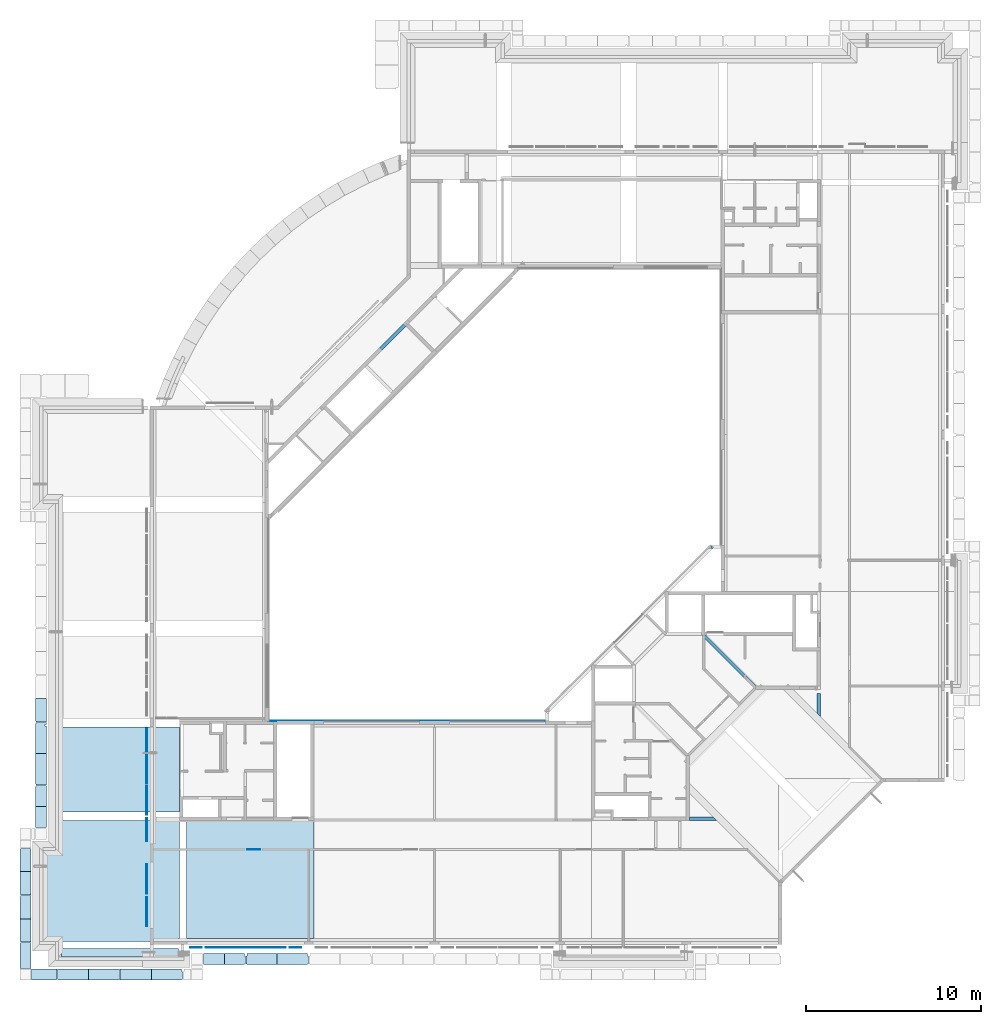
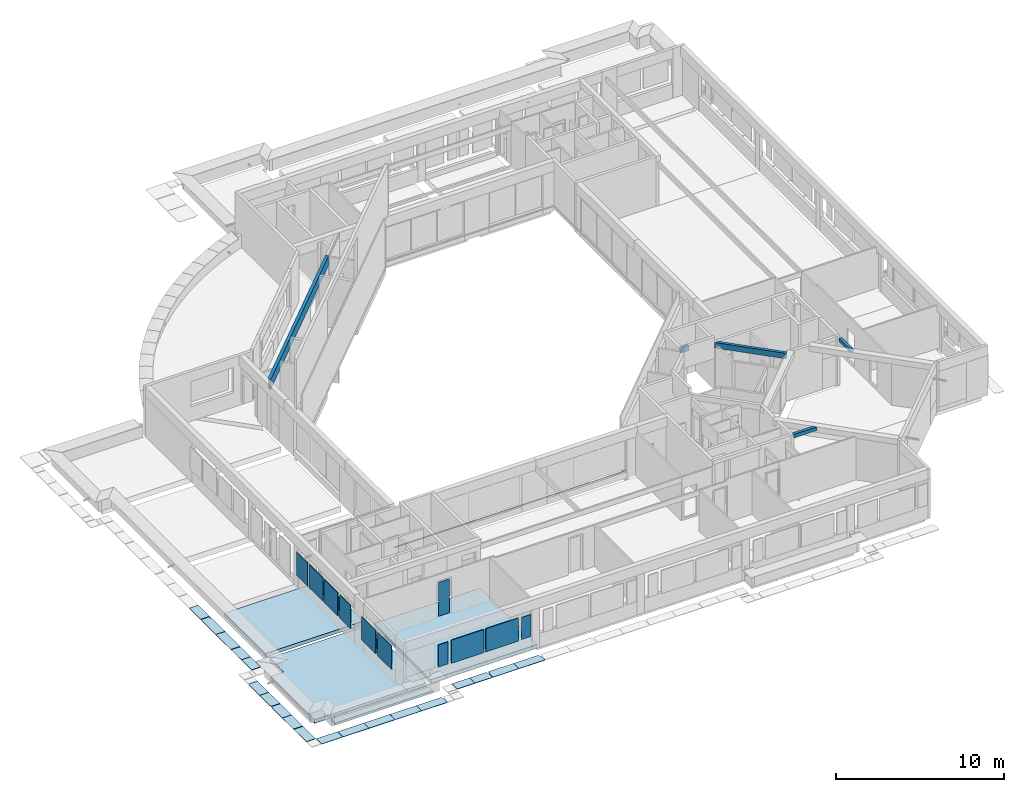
# One storey, part 2 of 38: 23 slabs, 11 plates, 5 beams, 1 member.
"""IFC4X3_ADD2 building model written with IfcOpenShell, lengths in millimetres."""

from ifc_helpers import new_model, si_unit, direction, frame, frame_2d, origin_with_axes, origin_2d_with_axis, place, context, subcontext, project, spatial, polyline, rectangle, outline, extrude, polygons, source, transform, mapped, material, type_object, type_shapes, element, save


model = new_model("IFC4X3_ADD2")

# Units and contexts
model_context = context("Model", 3, precision=1e-05, world=origin_with_axes(), true_north=direction((0.0, 1.0)))
body_context = subcontext(model_context, "Body", "Model", "MODEL_VIEW")
ifc_project = project(units=[si_unit("LENGTHUNIT", "METRE", prefix="MILLI"), si_unit("AREAUNIT", "SQUARE_METRE"), si_unit("VOLUMEUNIT", "CUBIC_METRE"), si_unit("PLANEANGLEUNIT", "RADIAN"), si_unit("TIMEUNIT", "SECOND"), si_unit("MASSUNIT", "GRAM")], contexts=[model_context])

# Site, building, storey
site_placement = place(None, origin_with_axes())
site = spatial("IfcSite", under=ifc_project, at=site_placement, Name="Site", CompositionType="ELEMENT")
building_placement = place(site_placement, origin_with_axes())
building = spatial("IfcBuilding", under=site, at=building_placement, Name="IFC Building Story")
storey_placement = place(building_placement, frame((0.0, 0.0, 10800.0), z_axis=(0.0, 0.0, 1.0), x_axis=(1.0, 0.0, 0.0)))
storey = spatial("IfcBuildingStorey", under=building, at=storey_placement, Name="030", Elevation=10800.0)

# Beams
ifc_material_1 = material(Name="BB_Beton_Bestaand")
beam_type_1 = type_object("IfcBeamType", Name="BB_XX_Betonbalk_ rechthoekig_ center-center_SFB_190 x 400 mm21", PredefinedType="NOTDEFINED")
shared_shape_1 = source(origin_with_axes(), body_context, "Body", "Tessellation", [
    polygons([(3099.99999999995, 0.0, 400.0), (3099.99999999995, 0.0, 0.0), (3234.3502884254, 134.350288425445, 0.0), (3234.3502884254, 134.350288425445, 400.0), (1.08286712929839e-11, 3099.99999999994, 400.0), (1.51601398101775e-11, 3099.99999999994, 0.0), (268.700576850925, 3099.99999999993, 0.0), (268.700576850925, 3099.99999999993, 400.0), (200.000000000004, 3099.99999999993, 400.0)], [[[1, 2, 3, 4]], [[2, 1, 5, 6]], [[3, 2, 6, 7]], [[4, 3, 7, 8]], [[9, 5, 1]], [[1, 4, 8]], [[1, 8, 9]], [[9, 8, 7]], [[7, 6, 5]], [[7, 5, 9]]]),
])
type_shapes(beam_type_1, [shared_shape_1])
beam_1_placement = place(storey_placement, frame((-13815.0, 14500.0, 3000.0), z_axis=(0.0, 0.0, 1.0), x_axis=(1.0, 0.0, 0.0)))
element("IfcBeam", 1, at=beam_1_placement, inside=storey, type_object=beam_type_1, material=ifc_material_1, Name="BB_XX_Betonbalk, rechthoekig, center-center_SFB:190 x 400 mm", ObjectType="BB_XX_Betonbalk, rechthoekig, center-center_SFB:190 x 400 mm", PredefinedType="BEAM", context=body_context, shape_type="MappedRepresentation", body=[
    mapped(shared_shape_1, transform((0.0, 0.0, 0.0))),
])
beam_type_2 = type_object("IfcBeamType", Name="BB_XX_Betonbalk_ rechthoekig_ center-center_SFB_200 x 260 mm1", PredefinedType="NOTDEFINED")
shared_shape_2 = source(origin_with_axes(), body_context, "Body", "Tessellation", [
    polygons([(2.16573425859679e-12, 1356.00057685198, 260.000000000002), (200.0, 1356.00057685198, 260.000000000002), (200.0, 1356.00057685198, 0.0), (2.16573425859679e-12, 1356.00057685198, 0.0), (1.08286712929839e-12, 200.0, 2.16573425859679e-12), (1.08286712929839e-12, 200.0, 260.000000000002), (200.0, 0.0, 0.0), (200.0, 2.16573425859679e-12, 260.000000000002)], [[[1, 2, 3, 4]], [[1, 4, 5, 6]], [[4, 3, 7, 5]], [[3, 2, 8, 7]], [[2, 1, 6, 8]], [[6, 5, 7, 8]]]),
])
type_shapes(beam_type_2, [shared_shape_2])
beam_2_placement = place(storey_placement, frame((-7200.0, 12932.3044737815, 3140.0), z_axis=(0.0, 0.0, 1.0), x_axis=(1.0, 0.0, 0.0)))
element("IfcBeam", 2, at=beam_2_placement, inside=storey, type_object=beam_type_2, material=ifc_material_1, Name="BB_XX_Betonbalk, rechthoekig, center-center_SFB:200 x 260 mm", ObjectType="BB_XX_Betonbalk, rechthoekig, center-center_SFB:200 x 260 mm", PredefinedType="BEAM", context=body_context, shape_type="MappedRepresentation", body=[
    mapped(shared_shape_2, transform((0.0, 0.0, 0.0))),
])
beam_type_3 = type_object("IfcBeamType", Name="BB_XX_Betonbalk_ rechthoekig_ center-center_SFB_200 x 260 mm3", PredefinedType="NOTDEFINED")
shared_shape_3 = source(origin_with_axes(), body_context, "Body", "Tessellation", [
    polygons([(-2.16573425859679e-12, 5.41433564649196e-12, 260.000000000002), (-2.16573425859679e-12, 200.000000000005, 260.000000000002), (-2.16573425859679e-12, 200.000000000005, 0.0), (-2.16573425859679e-12, 5.41433564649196e-12, 0.0), (1565.38222280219, -1.08286712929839e-12, 0.0), (1565.38222280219, -1.08286712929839e-12, 260.000000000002), (1365.3822228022, 200.0, 0.0), (1365.3822228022, 200.0, 260.000000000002)], [[[1, 2, 3, 4]], [[1, 4, 5, 6]], [[4, 3, 7, 5]], [[3, 2, 8, 7]], [[2, 1, 6, 8]], [[6, 5, 7, 8]]]),
])
type_shapes(beam_type_3, [shared_shape_3])
beam_3_placement = place(storey_placement, frame((-14500.0, 7000.0, 3140.0), z_axis=(0.0, 0.0, 1.0), x_axis=(1.0, 0.0, 0.0)))
element("IfcBeam", 3, at=beam_3_placement, inside=storey, type_object=beam_type_3, material=ifc_material_1, Name="BB_XX_Betonbalk, rechthoekig, center-center_SFB:200 x 260 mm", ObjectType="BB_XX_Betonbalk, rechthoekig, center-center_SFB:200 x 260 mm", PredefinedType="BEAM", context=body_context, shape_type="MappedRepresentation", body=[
    mapped(shared_shape_3, transform((0.0, 0.0, 0.0))),
])
beam_type_4 = type_object("IfcBeamType", Name="BB_XX_Betonbalk_ rechthoekig_ center-center_SFB_200 x 720 mm41", PredefinedType="NOTDEFINED")
shared_shape_4 = source(origin_with_axes(), body_context, "Body", "Tessellation", [
    polygons([(9448.69930781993, 9446.94659665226, -4.33146851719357e-12), (9448.69930781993, 9446.94659665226, -720.000000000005), (9307.27795158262, 9588.36795288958, -720.000000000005), (9307.27795158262, 9588.36795288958, -4.33146851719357e-12), (1.75271116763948, 4.33146851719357e-12, -720.000000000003), (1.75271116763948, 4.33146851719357e-12, 0.0), (0.0, 1.75271116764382, 0.0), (0.0, 1.75271116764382, -720.000000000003), (0.0, 281.090001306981, -720.000000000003), (0.0, 281.090001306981, -2.16573425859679e-12)], [[[1, 2, 3, 4]], [[5, 6, 7, 8]], [[2, 1, 6, 5]], [[3, 2, 5]], [[3, 5, 8]], [[3, 8, 9]], [[4, 3, 9, 10]], [[1, 4, 10]], [[1, 10, 7]], [[1, 7, 6]], [[8, 7, 10, 9]]]),
])
type_shapes(beam_type_4, [shared_shape_4])
beam_4_placement = place(storey_placement, frame((-38605.0, 27409.746942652, 3400.0), z_axis=(0.0, 0.0, 1.0), x_axis=(1.0, 0.0, 0.0)))
element("IfcBeam", 4, at=beam_4_placement, inside=storey, type_object=beam_type_4, material=ifc_material_1, Name="BB_XX_Betonbalk, rechthoekig, center-center_SFB:200 x 720 mm", ObjectType="BB_XX_Betonbalk, rechthoekig, center-center_SFB:200 x 720 mm", PredefinedType="BEAM", context=body_context, shape_type="MappedRepresentation", body=[
    mapped(shared_shape_4, transform((0.0, 0.0, 0.0))),
])
beam_type_5 = type_object("IfcBeamType", Name="BB_XX_Betonbalk_ rechthoekig_ center-center_SFB_190 x 400 mm25", PredefinedType="NOTDEFINED")
shared_shape_5 = source(origin_with_axes(), body_context, "Body", "SweptSolid", [
    extrude(rectangle(XDim=558.9952580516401, YDim=190.0, at=origin_2d_with_axis()), frame((-12974.49762902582, 22660.0, 10200.0), z_axis=(0.0, 0.0, 1.0), x_axis=(1.0, 0.0, 0.0)), (0.0, 0.0, 1.0), 400.0),
])
type_shapes(beam_type_5, [shared_shape_5])
beam_5_placement = place(storey_placement, frame((0.0, 0.0, -10800.0), z_axis=(0.0, 0.0, 1.0), x_axis=(1.0, 0.0, 0.0)))
element("IfcBeam", 5, at=beam_5_placement, inside=storey, type_object=beam_type_5, material=ifc_material_1, Name="BB_XX_Betonbalk, rechthoekig, center-center_SFB:190 x 400 mm", ObjectType="190 x 400 mm", PredefinedType="BEAM", context=body_context, shape_type="MappedRepresentation", body=[
    mapped(shared_shape_5, transform((0.0, 0.0, 0.0))),
])

# Member
ifc_material_2 = material(Name="BB_Metaal_Aluminium_Buitenschrijnwerk")
member_type = type_object("IfcMemberType", Name="BB_10.12.90_Verankeringsrail_GLI_XX_H 50mm x B 30mm7", PredefinedType="NOTDEFINED")
shared_shape_6 = source(origin_with_axes(), body_context, "Body", "Tessellation", [
    polygons([(30.0000000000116, 29.9999999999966, -1.86117787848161e-12), (6.29698515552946e-12, -8.42676484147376e-12, -1.86117787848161e-12), (15830.000000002, -8.42605984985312e-12, -1.86117787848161e-12), (15830.000000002, 29.9999999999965, -1.86117787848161e-12), (6.29698515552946e-12, -8.42746983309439e-12, -50.0000000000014), (15830.000000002, -8.42605984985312e-12, -50.0000000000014), (30.0000000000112, 29.9999999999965, -50.0000000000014), (15830.000000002, 29.9999999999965, -50.0000000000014)], [[[1, 2, 3, 4]], [[2, 5, 6, 3]], [[5, 7, 8, 6]], [[7, 1, 4, 8]], [[2, 1, 7, 5]], [[4, 3, 6, 8]]]),
])
type_shapes(member_type, [shared_shape_6])
member_placement = place(storey_placement, frame((-38605.0, 12695.004065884, 220.0), z_axis=(0.0, 0.0, 1.0), x_axis=(1.0, 0.0, 0.0)))
element("IfcMember", 6, at=member_placement, inside=storey, type_object=member_type, material=ifc_material_2, Name="BB_10.12.90_Verankeringsrail_GLI:XX_H 50mm x B 30mm", ObjectType="BB_10.12.90_Verankeringsrail_GLI:XX_H 50mm x B 30mm", PredefinedType="USERDEFINED", context=body_context, shape_type="MappedRepresentation", body=[
    mapped(shared_shape_6, transform((0.0, 0.0, 0.0))),
])

# Plates
ifc_material_3 = material(Name="BB_Glas")
shared_shape_7 = source(origin_with_axes(), body_context, "Body", "SweptSolid", [
    extrude(rectangle(XDim=1602.000000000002, YDim=652.000000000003, at=frame_2d((0.0, 0.0), x_axis=(0.0, 1.0))), frame((0.0, 0.0, -44.0), z_axis=(0.0, 0.0, 1.0), x_axis=(1.0, 0.0, 0.0)), (0.0, 0.0, 1.0), 44.0),
])
for number, where, z_axis, x_axis in (
    (7, (-42756.0, -287.499999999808, 1765.0), (0.0, -1.0, 0.0), (1.0, 0.0, 0.0)),
    (8, (-37044.0, -287.499999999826, 1765.0), (0.0, -1.0, 0.0), (1.0, 0.0, 0.0)),
):
    element("IfcPlate", number, at=place(storey_placement, frame(where, z_axis=z_axis, x_axis=x_axis)), inside=storey, material=ifc_material_3, Name="BB_07.06_Buitenbeglazing, rechthoekig_GMO:07.06.72#01_Drievoudige beglazing, 44 mm, A/A*/A", ObjectType="BB_07.06_Buitenbeglazing, rechthoekig_GMO:07.06.72#01_Drievoudige beglazing, 44 mm, A/A*/A", PredefinedType="USERDEFINED", context=body_context, shape_type="MappedRepresentation", body=[
        mapped(shared_shape_7, transform((0.0, 0.0, 0.0))),
    ])
shared_shape_8 = source(origin_with_axes(), body_context, "Body", "SweptSolid", [
    extrude(rectangle(XDim=2222.0, YDim=1680.000000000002, at=origin_2d_with_axis()), frame((0.0, 0.0, -44.0), z_axis=(0.0, 0.0, 1.0), x_axis=(1.0, 0.0, 0.0)), (0.0, 0.0, 1.0), 44.0),
])
for number, where, z_axis, x_axis in (
    (9, (-41081.0, -287.499999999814, 1765.0), (0.0, -1.0, 0.0), (1.0, 0.0, 0.0)),
    (10, (-38719.0, -287.499999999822, 1765.0), (0.0, -1.0, 0.0), (1.0, 0.0, 0.0)),
):
    element("IfcPlate", number, at=place(storey_placement, frame(where, z_axis=z_axis, x_axis=x_axis)), inside=storey, material=ifc_material_3, Name="BB_07.06_Buitenbeglazing, rechthoekig_GMO:07.06.72#01_Drievoudige beglazing, 44 mm, A/A*/A", ObjectType="BB_07.06_Buitenbeglazing, rechthoekig_GMO:07.06.72#01_Drievoudige beglazing, 44 mm, A/A*/A", PredefinedType="USERDEFINED", context=body_context, shape_type="MappedRepresentation", body=[
        mapped(shared_shape_8, transform((0.0, 0.0, 0.0))),
    ])
shared_shape_9 = source(origin_with_axes(), body_context, "Body", "SweptSolid", [
    extrude(rectangle(XDim=1680.000000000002, YDim=1680.000000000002, at=frame_2d((0.0, 0.0), x_axis=(0.0, 1.0))), frame((0.0, 0.0, -44.0), z_axis=(0.0, 0.0, 1.0), x_axis=(1.0, 0.0, 0.0)), (0.0, 0.0, 1.0), 44.0),
])
for number, where, z_axis, x_axis in (
    (11, (-45587.4999999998, 3670.0, 1765.0), (-1.0, 0.0, 0.0), (0.0, -1.0, 0.0)),
    (12, (-45587.4999999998, 1790.0, 1765.0), (-1.0, 0.0, 0.0), (0.0, -1.0, 0.0)),
):
    element("IfcPlate", number, at=place(storey_placement, frame(where, z_axis=z_axis, x_axis=x_axis)), inside=storey, material=ifc_material_3, Name="BB_07.06_Buitenbeglazing, rechthoekig_GMO:07.06.72#01_Drievoudige beglazing, 44 mm, A/A*/A", ObjectType="BB_07.06_Buitenbeglazing, rechthoekig_GMO:07.06.72#01_Drievoudige beglazing, 44 mm, A/A*/A", PredefinedType="USERDEFINED", context=body_context, shape_type="MappedRepresentation", body=[
        mapped(shared_shape_9, transform((0.0, 0.0, 0.0))),
    ])
shared_shape_10 = source(origin_with_axes(), body_context, "Body", "SweptSolid", [
    extrude(rectangle(XDim=1680.000000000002, YDim=1320.000000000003, at=frame_2d((0.0, 0.0), x_axis=(0.0, 1.0))), frame((0.0, 0.0, -44.0), z_axis=(0.0, 0.0, 1.0), x_axis=(1.0, 0.0, 0.0)), (0.0, 0.0, 1.0), 44.0),
])
for number, where, z_axis, x_axis in (
    (13, (-45587.4999999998, 11590.0, 1765.0), (-1.0, 0.0, 0.0), (0.0, -1.0, 0.0)),
    (14, (-45587.4999999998, 6470.0, 1765.0), (-1.0, 0.0, 0.0), (0.0, -1.0, 0.0)),
):
    element("IfcPlate", number, at=place(storey_placement, frame(where, z_axis=z_axis, x_axis=x_axis)), inside=storey, material=ifc_material_3, Name="BB_07.06_Buitenbeglazing, rechthoekig_GMO:07.06.72#01_Drievoudige beglazing, 44 mm, A/A*/A", ObjectType="BB_07.06_Buitenbeglazing, rechthoekig_GMO:07.06.72#01_Drievoudige beglazing, 44 mm, A/A*/A", PredefinedType="USERDEFINED", context=body_context, shape_type="MappedRepresentation", body=[
        mapped(shared_shape_10, transform((0.0, 0.0, 0.0))),
    ])
shared_shape_11 = source(origin_with_axes(), body_context, "Body", "SweptSolid", [
    extrude(rectangle(XDim=1680.000000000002, YDim=1630.000000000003, at=frame_2d((0.0, 0.0), x_axis=(0.0, 1.0))), frame((0.0, 0.0, -44.0), z_axis=(0.0, 0.0, 1.0), x_axis=(1.0, 0.0, 0.0)), (0.0, 0.0, 1.0), 44.0),
])
for number, where, z_axis, x_axis in (
    (15, (-45587.4999999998, 9915.0, 1765.0), (-1.0, 0.0, 0.0), (0.0, -1.0, 0.0)),
    (16, (-45587.4999999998, 8145.0, 1765.0), (-1.0, 0.0, 0.0), (0.0, -1.0, 0.0)),
):
    element("IfcPlate", number, at=place(storey_placement, frame(where, z_axis=z_axis, x_axis=x_axis)), inside=storey, material=ifc_material_3, Name="BB_07.06_Buitenbeglazing, rechthoekig_GMO:07.06.72#01_Drievoudige beglazing, 44 mm, A/A*/A", ObjectType="BB_07.06_Buitenbeglazing, rechthoekig_GMO:07.06.72#01_Drievoudige beglazing, 44 mm, A/A*/A", PredefinedType="USERDEFINED", context=body_context, shape_type="MappedRepresentation", body=[
        mapped(shared_shape_11, transform((0.0, 0.0, 0.0))),
    ])
shared_shape_12 = source(origin_with_axes(), body_context, "Body", "SweptSolid", [
    extrude(rectangle(XDim=2462.0, YDim=732.000000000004, at=frame_2d((0.0, 0.0), x_axis=(0.0, 1.0))), frame((0.0, 0.0, -17.0), z_axis=(0.0, 0.0, 1.0), x_axis=(1.0, 0.0, 0.0)), (0.0, 0.0, 1.0), 17.0),
])
plate_placement = place(storey_placement, frame((-39450.0, 5362.0, 1315.0), z_axis=(0.0, 1.0, 0.0), x_axis=(-1.0, 0.0, 0.0)))
element("IfcPlate", 17, at=plate_placement, inside=storey, material=ifc_material_3, Name="BB_10.10_Binnenbeglazing, rechthoekig_GMO:10.10.41#01_Enkelvoudige beglazing, 2B2, EI30", ObjectType="BB_10.10_Binnenbeglazing, rechthoekig_GMO:10.10.41#01_Enkelvoudige beglazing, 2B2, EI30", PredefinedType="USERDEFINED", context=body_context, shape_type="MappedRepresentation", body=[
    mapped(shared_shape_12, transform((0.0, 0.0, 0.0))),
])

# Slabs
slab_type_1 = type_object("IfcSlabType", Name="BB_Beton_Bestaand 260", PredefinedType="FLOOR", material=ifc_material_1)
slab_1_placement = place(storey_placement, frame((-51355.00000000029, 95.00000000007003, -459.9999999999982), z_axis=(0.0, 0.0, 1.0), x_axis=(1.0, 0.0, 0.0)))
element("IfcSlab", 18, at=slab_1_placement, inside=storey, type_object=slab_type_1, Name="Floor:BB_XX_Vloer welfsels, 260 mm", ObjectType="Floor:BB_XX_Vloer welfsels, 260 mm", PredefinedType="FLOOR", context=body_context, shape_type="SweptSolid", body=[
    extrude(outline(polyline([(3568.749999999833, -2916.250000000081), (3568.749999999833, -3066.25000000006), (-4041.250000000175, -3066.25000000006), (-4041.250000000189, 2143.74999999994), (-3141.249999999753, 2143.749999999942), (-3141.24999999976, 3838.750000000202), (3613.75000000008, 3838.750000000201), (3613.750000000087, -2916.250000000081), (3568.749999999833, -2916.250000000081)])), frame((4041.250000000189, 3066.25000000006, 0.0), z_axis=(0.0, 0.0, 1.0), x_axis=(1.0, 0.0, 0.0)), (0.0, 0.0, 1.0), 259.999999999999),
])
slab_2_placement = place(storey_placement, frame((-50454.99999999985, 7500.00000000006, -459.9999999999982), z_axis=(0.0, 0.0, 1.0), x_axis=(1.0, 0.0, 0.0)))
element("IfcSlab", 19, at=slab_2_placement, inside=storey, type_object=slab_type_1, Name="Floor:BB_XX_Vloer welfsels, 260 mm", ObjectType="Floor:BB_XX_Vloer welfsels, 260 mm", PredefinedType="FLOOR", context=body_context, shape_type="SweptSolid", body=[
    extrude(rectangle(XDim=6754.999999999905, YDim=4849.99999999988, at=origin_2d_with_axis()), frame((3377.499999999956, 2424.99999999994, 0.0), z_axis=(0.0, 0.0, 1.0), x_axis=(1.0, 0.0, 0.0)), (0.0, 0.0, 1.0), 259.999999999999),
])
slab_3_placement = place(storey_placement, frame((-43299.99999999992, 245.0000000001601, -459.9999999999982), z_axis=(0.0, 0.0, 1.0), x_axis=(1.0, 0.0, 0.0)))
element("IfcSlab", 20, at=slab_3_placement, inside=storey, type_object=slab_type_1, Name="Floor:BB_XX_Vloer welfsels, 260 mm", ObjectType="Floor:BB_XX_Vloer welfsels, 260 mm", PredefinedType="FLOOR", context=body_context, shape_type="SweptSolid", body=[
    extrude(rectangle(XDim=7299.99999999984, YDim=6755.00000000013, at=origin_2d_with_axis()), frame((3649.99999999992, 3377.50000000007, 0.0), z_axis=(0.0, 0.0, 1.0), x_axis=(1.0, 0.0, 0.0)), (0.0, 0.0, 1.0), 259.999999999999),
])
slab_type_2 = type_object("IfcSlabType", Name="BB_Beton_Bestaand 150", PredefinedType="FLOOR", material=ifc_material_1)
slab_4_placement = place(storey_placement, frame((-50455.0, -805.000000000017, -350.0000000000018), z_axis=(0.0, 0.0, 1.0), x_axis=(1.0, 0.0, 0.0)))
element("IfcSlab", 21, at=slab_4_placement, inside=storey, type_object=slab_type_2, Name="Floor:BB_XX_Vloer uit beton, 150 mm", ObjectType="Floor:BB_XX_Vloer uit beton, 150 mm", PredefinedType="FLOOR", context=body_context, shape_type="SweptSolid", body=[
    extrude(rectangle(XDim=6710.0, YDim=500.000000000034, at=origin_2d_with_axis()), frame((3355.0, 250.0000000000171, 0.0), z_axis=(0.0, 0.0, 1.0), x_axis=(1.0, 0.0, 0.0)), (0.0, 0.0, 1.0), 150.000000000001),
])
ifc_material_4 = material(Name="Steel, Galvanized - looprooster")
slab_type_3 = type_object("IfcSlabType", Name="Steel, Galvanized - looprooster 30", PredefinedType="FLOOR", material=ifc_material_4)
slab_5_placement = place(storey_placement, frame((-52819.99783771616, 4080.001963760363, -350.0), z_axis=(0.0, 0.0, 1.0), x_axis=(0.0, -1.0, 0.0)))
element("IfcSlab", 22, at=slab_5_placement, inside=storey, type_object=slab_type_3, Name="Floor:GVH - Looprooster 30 mm", ObjectType="Floor:GVH - Looprooster 30 mm", PredefinedType="FLOOR", context=body_context, shape_type="SweptSolid", body=[
    extrude(outline(polyline([(474.0006666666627, -200.0015335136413), (387.0006666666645, -200.0015335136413), (387.0006666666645, -214.9992332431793), (-861.0013333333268, -214.9992332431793), (-861.0013333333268, 415.0007667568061), (474.0006666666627, 415.0007667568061), (474.0006666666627, -200.0015335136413)])), frame((861.0013333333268, 214.9992332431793, 0.0), z_axis=(0.0, 0.0, 1.0), x_axis=(1.0, 0.0, 0.0)), (0.0, 0.0, 1.0), 29.99999999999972),
])
slab_6_placement = place(storey_placement, frame((-41122.49796376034, -1219.998397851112, -350.0), z_axis=(0.0, 0.0, 1.0), x_axis=(1.0, 0.0, 0.0)))
element("IfcSlab", 23, at=slab_6_placement, inside=storey, type_object=slab_type_3, Name="Floor:GVH - Looprooster 30 mm", ObjectType="Floor:GVH - Looprooster 30 mm", PredefinedType="FLOOR", context=body_context, shape_type="SweptSolid", body=[
    extrude(outline(polyline([(275.874500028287, -267.4995632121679), (275.874500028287, -282.4992199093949), (-879.6235000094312, -282.4992199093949), (-879.6235000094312, 347.5004367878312), (275.8744999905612, 347.5004367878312), (275.8744999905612, 202.4983463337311), (327.8744999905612, 202.4983463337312), (327.8744999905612, -267.4995632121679), (275.874500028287, -267.4995632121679)])), frame((879.6235000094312, 282.4992199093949, 0.0), z_axis=(0.0, 0.0, 1.0), x_axis=(1.0, 0.0, 0.0)), (0.0, 0.0, 1.0), 29.99999999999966),
])
slab_7_placement = place(storey_placement, frame((-38100.00196372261, -1219.99839785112, -350.0), z_axis=(0.0, 0.0, 1.0), x_axis=(1.0, 0.0, 0.0)))
element("IfcSlab", 24, at=slab_7_placement, inside=storey, type_object=slab_type_3, Name="Floor:GVH - Looprooster 30 mm", ObjectType="Floor:GVH - Looprooster 30 mm", PredefinedType="FLOOR", context=body_context, shape_type="SweptSolid", body=[
    extrude(outline(polyline([(420.0005000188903, -267.499561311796), (420.0005000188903, -282.499218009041), (-1313.001499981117, -282.499218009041), (-1313.001499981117, 347.500438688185), (420.5004999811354, 347.500438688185), (420.5004999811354, 202.498340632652), (472.5004999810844, 202.498340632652), (472.5004999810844, -267.499561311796), (420.0005000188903, -267.499561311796)])), frame((1313.001499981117, 282.499218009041, 0.0), z_axis=(0.0, 0.0, 1.0), x_axis=(1.0, 0.0, 0.0)), (0.0, 0.0, 1.0), 29.99999999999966),
])
slab_8_placement = place(storey_placement, frame((-51919.99797688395, 13979.49796376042, -350.0), z_axis=(0.0, 0.0, 1.0), x_axis=(0.0, -1.0, 0.0)))
element("IfcSlab", 25, at=slab_8_placement, inside=storey, type_object=slab_type_3, Name="Floor:GVH - Looprooster 30 mm", ObjectType="Floor:GVH - Looprooster 30 mm", PredefinedType="FLOOR", context=body_context, shape_type="SweptSolid", body=[
    extrude(outline(polyline([(462.1659332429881, -200.0011600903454), (410.1661335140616, -200.0011600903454), (410.1661335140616, -214.9994199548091), (-872.3320667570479, -214.9994199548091), (-872.3320667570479, 415.0005800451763), (462.1659332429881, 415.0005800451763), (462.1659332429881, -200.0011600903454)])), frame((872.3320667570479, 214.9994199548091, 0.0), z_axis=(0.0, 0.0, 1.0), x_axis=(1.0, 0.0, 0.0)), (0.0, 0.0, 1.0), 29.99999999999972),
])
slab_9_placement = place(storey_placement, frame((-51919.99839785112, 12614.99596376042, -350.0), z_axis=(0.0, 0.0, 1.0), x_axis=(0.0, -1.0, 0.0)))
element("IfcSlab", 26, at=slab_9_placement, inside=storey, type_object=slab_type_3, Name="Floor:GVH - Looprooster 30 mm", ObjectType="Floor:GVH - Looprooster 30 mm", PredefinedType="FLOOR", context=body_context, shape_type="SweptSolid", body=[
    extrude(outline(polyline([(-240.297960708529, 267.0010986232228), (1359.196039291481, 267.0010986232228), (1359.196039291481, -362.9989013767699), (-373.3021571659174, -362.9989013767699), (-373.3021571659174, -348.001190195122), (-425.2979607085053, -348.001190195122), (-425.2979607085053, 267.0010986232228), (-320.297960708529, 267.0010986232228), (-320.297960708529, 176.9978943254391), (-240.2979607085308, 176.9978943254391), (-240.297960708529, 267.0010986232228)])), frame((425.2979607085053, 362.9989013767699, 0.0), z_axis=(0.0, 0.0, 1.0), x_axis=(1.0, 0.0, 0.0)), (0.0, 0.0, 1.0), 29.99999999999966),
])
slab_10_placement = place(storey_placement, frame((-51919.99839785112, 10829.49796185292, -350.0), z_axis=(0.0, 0.0, 1.0), x_axis=(0.0, -1.0, 0.0)))
element("IfcSlab", 27, at=slab_10_placement, inside=storey, type_object=slab_type_3, Name="Floor:GVH - Looprooster 30 mm", ObjectType="Floor:GVH - Looprooster 30 mm", PredefinedType="FLOOR", context=body_context, shape_type="SweptSolid", body=[
    extrude(outline(polyline([(612.1685992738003, -200.001525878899), (560.1647995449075, -200.001525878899), (560.1647995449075, -214.9992370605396), (-1172.33339881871, -214.9992370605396), (-1172.33339881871, 415.0007629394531), (612.1685992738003, 415.0007629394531), (612.1685992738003, -200.001525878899)])), frame((1172.33339881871, 214.9992370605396, 0.0), z_axis=(0.0, 0.0, 1.0), x_axis=(1.0, 0.0, 0.0)), (0.0, 0.0, 1.0), 29.99999999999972),
])
slab_11_placement = place(storey_placement, frame((-51919.99595649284, 9014.999963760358, -350.0), z_axis=(0.0, 0.0, 1.0), x_axis=(0.0, -1.0, 0.0)))
element("IfcSlab", 28, at=slab_11_placement, inside=storey, type_object=slab_type_3, Name="Floor:GVH - Looprooster 30 mm", ObjectType="Floor:GVH - Looprooster 30 mm", PredefinedType="FLOOR", context=body_context, shape_type="SweptSolid", body=[
    extrude(outline(polyline([(-419.9992684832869, 415.000580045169), (787.9987334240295, 415.000580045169), (787.9987334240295, -214.9994199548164), (-367.9994649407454, -214.9994199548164), (-367.9994649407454, -200.0011600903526), (-419.9992684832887, -200.0011600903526), (-419.9992684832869, 415.000580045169)])), frame((419.9992684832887, 214.9994199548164, 0.0), z_axis=(0.0, 0.0, 1.0), x_axis=(1.0, 0.0, 0.0)), (0.0, 0.0, 1.0), 29.99999999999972),
])
slab_12_placement = place(storey_placement, frame((-51919.99595649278, 7806.499258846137, -350.0), z_axis=(0.0, 0.0, 1.0), x_axis=(0.0, -1.0, 0.0)))
element("IfcSlab", 29, at=slab_12_placement, inside=storey, type_object=slab_type_3, Name="Floor:GVH - Looprooster 30 mm", ObjectType="Floor:GVH - Looprooster 30 mm", PredefinedType="FLOOR", context=body_context, shape_type="SweptSolid", body=[
    extrude(rectangle(XDim=1207.998000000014, YDim=629.9999999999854, at=frame_2d((0.0, 0.0), x_axis=(-1.0, 0.0))), frame((603.9990000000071, 314.9999999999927, 0.0), z_axis=(0.0, 0.0, 1.0), x_axis=(1.0, 0.0, 0.0)), (0.0, 0.0, 1.0), 29.99999999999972),
])
slab_13_placement = place(storey_placement, frame((-52819.99783771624, 2714.999963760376, -350.0), z_axis=(0.0, 0.0, 1.0), x_axis=(0.0, -1.0, 0.0)))
element("IfcSlab", 30, at=slab_13_placement, inside=storey, type_object=slab_type_3, Name="Floor:GVH - Looprooster 30 mm", ObjectType="Floor:GVH - Looprooster 30 mm", PredefinedType="FLOOR", context=body_context, shape_type="SweptSolid", body=[
    extrude(outline(polyline([(-474.0006666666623, 415.0007667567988), (861.001333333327, 415.0007667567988), (861.001333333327, -214.9992332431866), (-387.000666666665, -214.9992332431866), (-387.000666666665, -200.0015335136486), (-474.0006666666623, -200.0015335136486), (-474.0006666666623, 415.0007667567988)])), frame((474.0006666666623, 214.9992332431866, 0.0), z_axis=(0.0, 0.0, 1.0), x_axis=(1.0, 0.0, 0.0)), (0.0, 0.0, 1.0), 29.99999999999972),
])
slab_14_placement = place(storey_placement, frame((-52819.99783771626, 1379.497963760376, -350.0), z_axis=(0.0, 0.0, 1.0), x_axis=(0.0, -1.0, 0.0)))
element("IfcSlab", 31, at=slab_14_placement, inside=storey, type_object=slab_type_3, Name="Floor:GVH - Looprooster 30 mm", ObjectType="Floor:GVH - Looprooster 30 mm", PredefinedType="FLOOR", context=body_context, shape_type="SweptSolid", body=[
    extrude(outline(polyline([(462.1685999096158, -200.0015335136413), (410.1648001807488, -200.0015335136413), (410.1648001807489, -214.9992332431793), (-872.3334000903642, -214.9992332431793), (-872.3334000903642, 415.0007667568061), (462.1685999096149, 415.0007667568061), (462.1685999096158, -200.0015335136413)])), frame((872.3334000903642, 214.9992332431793, 0.0), z_axis=(0.0, 0.0, 1.0), x_axis=(1.0, 0.0, 0.0)), (0.0, 0.0, 1.0), 29.99999999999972),
])
slab_15_placement = place(storey_placement, frame((-52819.99783771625, 14.99996376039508, -350.0), z_axis=(0.0, 0.0, 1.0), x_axis=(0.0, -1.0, 0.0)))
element("IfcSlab", 32, at=slab_15_placement, inside=storey, type_object=slab_type_3, Name="Floor:GVH - Looprooster 30 mm", ObjectType="Floor:GVH - Looprooster 30 mm", PredefinedType="FLOOR", context=body_context, shape_type="SweptSolid", body=[
    extrude(outline(polyline([(-506.166169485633, 415.0007667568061), (960.332535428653, 415.0007667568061), (960.332535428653, -214.9992332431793), (-454.1663659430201, -214.9992332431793), (-454.16636594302, -200.0015335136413), (-506.166169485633, -200.0015335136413), (-506.166169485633, 415.0007667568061)])), frame((506.166169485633, 214.9992332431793, 0.0), z_axis=(0.0, 0.0, 1.0), x_axis=(1.0, 0.0, 0.0)), (0.0, 0.0, 1.0), 29.99999999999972),
])
slab_16_placement = place(storey_placement, frame((-39884.99996372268, -1219.99839785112, -350.0), z_axis=(0.0, 0.0, 1.0), x_axis=(1.0, 0.0, 0.0)))
element("IfcSlab", 33, at=slab_16_placement, inside=storey, type_object=slab_type_3, Name="Floor:GVH - Looprooster 30 mm", ObjectType="Floor:GVH - Looprooster 30 mm", PredefinedType="FLOOR", context=body_context, shape_type="SweptSolid", body=[
    extrude(outline(polyline([(-420.1254818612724, -282.499218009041), (-420.1254818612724, -267.499561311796), (-472.1254818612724, -267.499561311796), (-472.1254818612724, 202.498340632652), (-420.121554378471, 202.498340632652), (-420.121554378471, 347.500438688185), (1312.372518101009, 347.500438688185), (1312.372518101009, -282.499218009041), (-420.1254818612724, -282.499218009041)])), frame((472.1254818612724, 282.499218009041, 0.0), z_axis=(0.0, 0.0, 1.0), x_axis=(1.0, 0.0, 0.0)), (0.0, 0.0, 1.0), 29.99999999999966),
])
slab_17_placement = place(storey_placement, frame((-42331.5001068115, -1219.998397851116, -350.0), z_axis=(0.0, 0.0, 1.0), x_axis=(1.0, 0.0, 0.0)))
element("IfcSlab", 34, at=slab_17_placement, inside=storey, type_object=slab_type_3, Name="Floor:GVH - Looprooster 30 mm", ObjectType="Floor:GVH - Looprooster 30 mm", PredefinedType="FLOOR", context=body_context, shape_type="SweptSolid", body=[
    extrude(rectangle(XDim=1207.998000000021, YDim=629.9996566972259, at=origin_2d_with_axis()), frame((603.9990000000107, 314.9998283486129, 0.0), z_axis=(0.0, 0.0, 1.0), x_axis=(1.0, 0.0, 0.0)), (0.0, 0.0, 1.0), 29.99999999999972),
])
slab_18_placement = place(storey_placement, frame((-52819.99783771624, 5415.003963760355, -350.0), z_axis=(0.0, 0.0, 1.0), x_axis=(0.0, -1.0, 0.0)))
element("IfcSlab", 35, at=slab_18_placement, inside=storey, type_object=slab_type_3, Name="Floor:GVH - Looprooster 30 mm", ObjectType="Floor:GVH - Looprooster 30 mm", PredefinedType="FLOOR", context=body_context, shape_type="SweptSolid", body=[
    extrude(outline(polyline([(-462.168601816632, 415.0007667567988), (872.3334000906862, 415.0007667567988), (872.3334000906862, -214.9992332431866), (-410.1647982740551, -214.9992332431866), (-410.1647982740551, -200.0015335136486), (-462.168601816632, -200.0015335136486), (-462.168601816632, 415.0007667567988)])), frame((462.168601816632, 214.9992332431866, 0.0), z_axis=(0.0, 0.0, 1.0), x_axis=(1.0, 0.0, 0.0)), (0.0, 0.0, 1.0), 29.99999999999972),
])
slab_19_placement = place(storey_placement, frame((-52151.49839785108, -2119.998397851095, -350.0), z_axis=(0.0, 0.0, 1.0), x_axis=(1.0, 0.0, 0.0)))
element("IfcSlab", 36, at=slab_19_placement, inside=storey, type_object=slab_type_3, Name="Floor:GVH - Looprooster 30 mm", ObjectType="Floor:GVH - Looprooster 30 mm", PredefinedType="FLOOR", context=body_context, shape_type="SweptSolid", body=[
    extrude(outline(polyline([(444.166144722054, -200.0001144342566), (444.166144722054, -214.9997711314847), (-940.3322894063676, -214.9997711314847), (-940.3322894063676, 414.9998855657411), (496.1661446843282, 414.9998855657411), (496.1661446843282, -200.0001144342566), (444.166144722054, -200.0001144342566)])), frame((940.3322894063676, 214.9997711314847, 0.0), z_axis=(0.0, 0.0, 1.0), x_axis=(1.0, 0.0, 0.0)), (0.0, 0.0, 1.0), 29.99999999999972),
])
slab_20_placement = place(storey_placement, frame((-50684.99600000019, -2119.998397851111, -350.0), z_axis=(0.0, 0.0, 1.0), x_axis=(1.0, 0.0, 0.0)))
element("IfcSlab", 37, at=slab_20_placement, inside=storey, type_object=slab_type_3, Name="Floor:GVH - Looprooster 30 mm", ObjectType="Floor:GVH - Looprooster 30 mm", PredefinedType="FLOOR", context=body_context, shape_type="SweptSolid", body=[
    extrude(outline(polyline([(-560.3353091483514, -214.99977113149), (-560.3353091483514, -200.0001144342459), (-612.3313454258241, -200.0001144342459), (-612.3313454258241, 414.9998855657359), (1172.66665457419, 414.9998855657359), (1172.66665457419, -214.99977113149), (-560.3353091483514, -214.99977113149)])), frame((612.3313454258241, 214.99977113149, 0.0), z_axis=(0.0, 0.0, 1.0), x_axis=(1.0, 0.0, 0.0)), (0.0, 0.0, 1.0), 29.99999999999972),
])
slab_21_placement = place(storey_placement, frame((-48899.49639785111, -2119.998397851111, -350.0), z_axis=(0.0, 0.0, 1.0), x_axis=(1.0, 0.0, 0.0)))
element("IfcSlab", 38, at=slab_21_placement, inside=storey, type_object=slab_type_3, Name="Floor:GVH - Looprooster 30 mm", ObjectType="Floor:GVH - Looprooster 30 mm", PredefinedType="FLOOR", context=body_context, shape_type="SweptSolid", body=[
    extrude(rectangle(XDim=1784.496397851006, YDim=629.9996566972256, at=origin_2d_with_axis()), frame((892.248198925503, 314.9998283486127, 0.0), z_axis=(0.0, 0.0, 1.0), x_axis=(1.0, 0.0, 0.0)), (0.0, 0.0, 1.0), 29.99999999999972),
])
slab_22_placement = place(storey_placement, frame((-47084.99839785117, -2119.998397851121, -350.0), z_axis=(0.0, 0.0, 1.0), x_axis=(1.0, 0.0, 0.0)))
element("IfcSlab", 39, at=slab_22_placement, inside=storey, type_object=slab_type_3, Name="Floor:GVH - Looprooster 30 mm", ObjectType="Floor:GVH - Looprooster 30 mm", PredefinedType="FLOOR", context=body_context, shape_type="SweptSolid", body=[
    extrude(rectangle(XDim=1784.998000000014, YDim=629.9996566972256, at=origin_2d_with_axis()), frame((892.4990000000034, 314.9998283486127, 0.0), z_axis=(0.0, 0.0, 1.0), x_axis=(1.0, 0.0, 0.0)), (0.0, 0.0, 1.0), 29.99999999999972),
])
slab_23_placement = place(storey_placement, frame((-45300.00039785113, -2119.998397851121, -350.0), z_axis=(0.0, 0.0, 1.0), x_axis=(1.0, 0.0, 0.0)))
element("IfcSlab", 40, at=slab_23_placement, inside=storey, type_object=slab_type_3, Name="Floor:GVH - Looprooster 30 mm", ObjectType="Floor:GVH - Looprooster 30 mm", PredefinedType="FLOOR", context=body_context, shape_type="SweptSolid", body=[
    extrude(outline(polyline([(420.2513165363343, -267.4995613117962), (420.2513165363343, -282.4992180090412), (-1312.749117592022, -282.4992180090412), (-1312.749117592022, 347.5004386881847), (420.2489186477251, 347.5004386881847), (420.2489186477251, 202.4983406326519), (472.2488824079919, 202.4983406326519), (472.2488824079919, -267.4995613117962), (420.2513165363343, -267.4995613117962)])), frame((1312.749117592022, 282.4992180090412, 0.0), z_axis=(0.0, 0.0, 1.0), x_axis=(1.0, 0.0, 0.0)), (0.0, 0.0, 1.0), 29.99999999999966),
])

save(model, "model.ifc")
